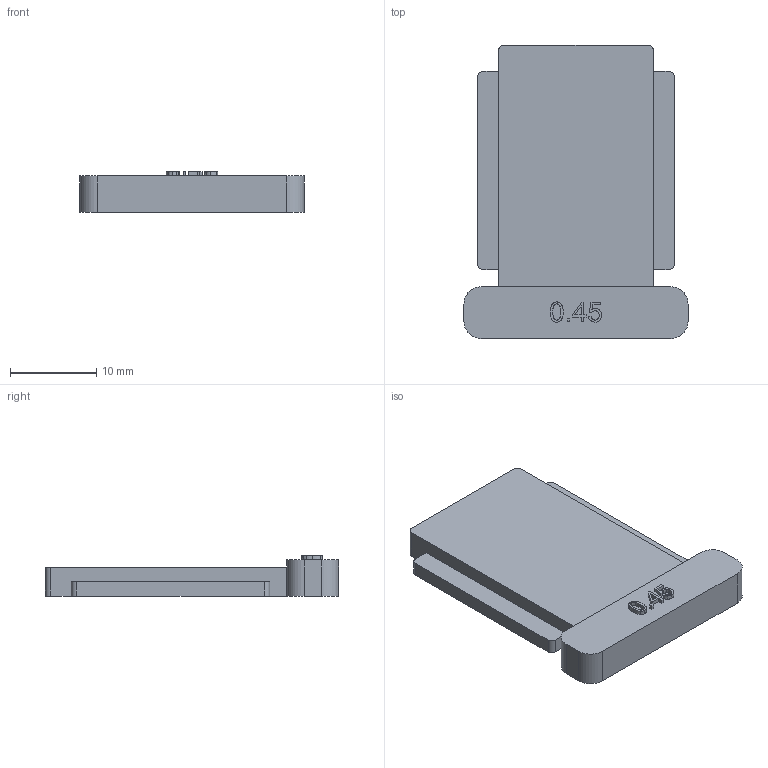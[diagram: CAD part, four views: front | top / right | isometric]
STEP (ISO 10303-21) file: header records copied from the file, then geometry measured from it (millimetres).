
FILE_DESCRIPTION(('Open CASCADE Model'),'2;1');
FILE_NAME('Open CASCADE Shape Model','1970-01-01T00:00:00',('Author'),( 'Open CASCADE'),'Open CASCADE STEP processor 7.8','Open CASCADE 7.8' ,'Unknown');
FILE_SCHEMA(('AUTOMOTIVE_DESIGN { 1 0 10303 214 1 1 1 1 }'));
Length unit declared in the file: millimetre
Products named in the file (2): Open CASCADE STEP translator 7.8 9; S45 sliding tongue
Assembly tree (1 placements, depth 2):
  Open CASCADE STEP translator 7.8 9
    S45 sliding tongue
Bounding box: 26 x 34 x 4.68 mm (x, y, z)
Volume: 2520.7 mm3; surface area: 2004.4 mm2
Topology: 1 solids, 1 shells, 94 faces, 258 edges, 172 vertices
Faces by surface type: plane 49, extrusion 35, cylinder 10
Entity records: 6989 total; most frequent: CARTESIAN_POINT 2196, DIRECTION 704, VECTOR 526, ORIENTED_EDGE 516, PCURVE 516, DEFINITIONAL_REPRESENTATION 516, LINE 491, B_SPLINE_CURVE_WITH_KNOTS 278
